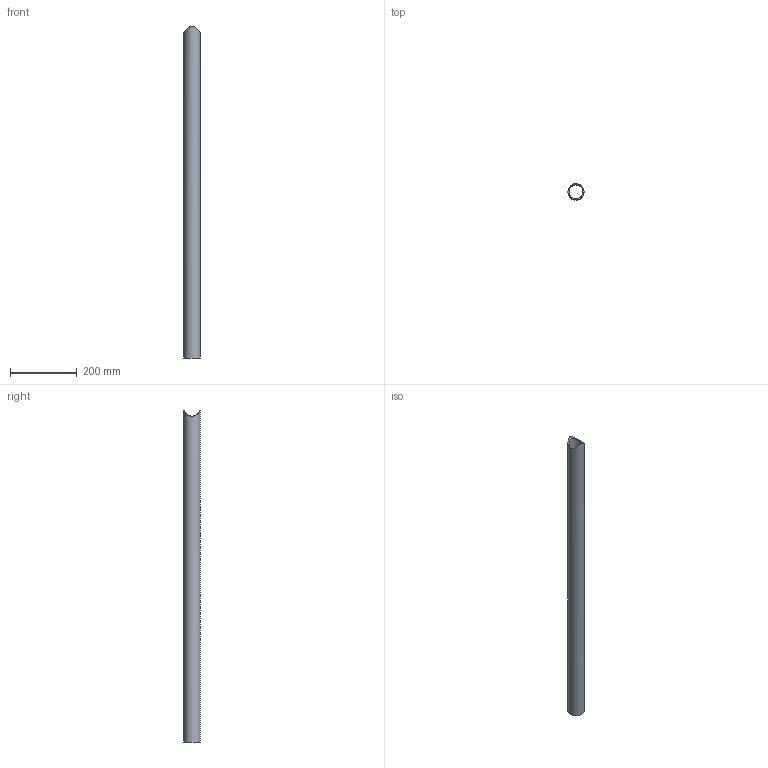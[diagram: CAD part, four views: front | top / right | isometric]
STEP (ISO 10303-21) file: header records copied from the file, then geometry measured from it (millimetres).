
FILE_DESCRIPTION(('Open CASCADE Model'),'2;1');
FILE_NAME('Open CASCADE Shape Model','2016-07-06T15:35:19',('Author'),( 'Open CASCADE'),'Open CASCADE STEP processor 6.8','Open CASCADE 6.8' ,'Unknown');
FILE_SCHEMA(('AUTOMOTIVE_DESIGN_CC2 { 1 2 10303 214 -1 1 5 4 }'));
Length unit declared in the file: millimetre
Products named in the file (1): Open CASCADE STEP translator 6.8 1
Bounding box: 48.3 x 48.3 x 993.54 mm (x, y, z)
Volume: 445660.2 mm3; surface area: 279318.3 mm2
Topology: 1 solids, 1 shells, 4 faces, 6 edges, 4 vertices
Faces by surface type: cylinder 3, plane 1
Full cylindrical faces by diameter (mm): 41.9 x1, 48.3 x1
Entity records: 760 total; most frequent: CARTESIAN_POINT 633, DIRECTION 16, ORIENTED_EDGE 12, B_SPLINE_CURVE_WITH_KNOTS 12, PCURVE 12, DEFINITIONAL_REPRESENTATION 12, AXIS2_PLACEMENT_3D 7, FACE_BOUND 6
